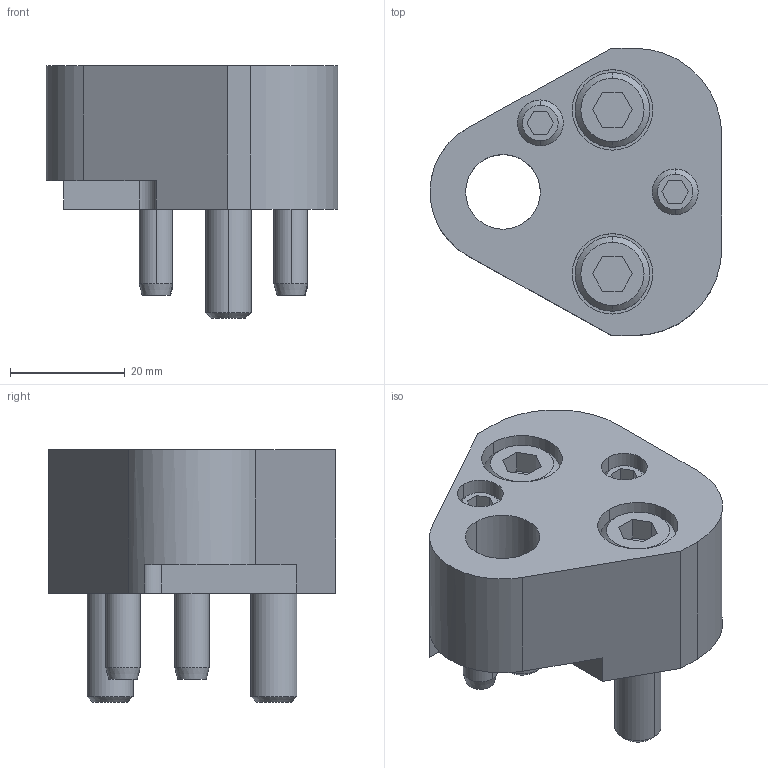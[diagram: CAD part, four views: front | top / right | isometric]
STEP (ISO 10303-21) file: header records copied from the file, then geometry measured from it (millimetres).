
FILE_DESCRIPTION(/* description */ (''),/* implementation_level */ '2;1');
FILE_NAME(/* name */ '3d_25crnfr13_03153_r00.stp',/* time_stamp */ '2011-01-10T14:17:52+09:00',/* author */ ('MISUMI'),/* organization */ (''),/* preprocessor_version */ 'ST-DEVELOPER v11',/* originating_system */ 'UGS - NX 5.0',/* authorisation */ '');
FILE_SCHEMA (('CONFIG_CONTROL_DESIGN'));
Length unit declared in the file: millimetre
Products named in the file (1): 3d_25crnfr13_03153_r00
Bounding box: 50.77 x 50 x 44 mm (x, y, z)
Volume: 42717.3 mm3; surface area: 15865.1 mm2
Topology: 7 solids, 7 shells, 136 faces, 304 edges, 195 vertices
Faces by surface type: plane 62, cylinder 48, cone 26
Entity records: 3927 total; most frequent: DIRECTION 695, CARTESIAN_POINT 695, ORIENTED_EDGE 608, EDGE_CURVE 304, AXIS2_PLACEMENT_3D 261, VERTEX_POINT 195, LINE 173, VECTOR 173
